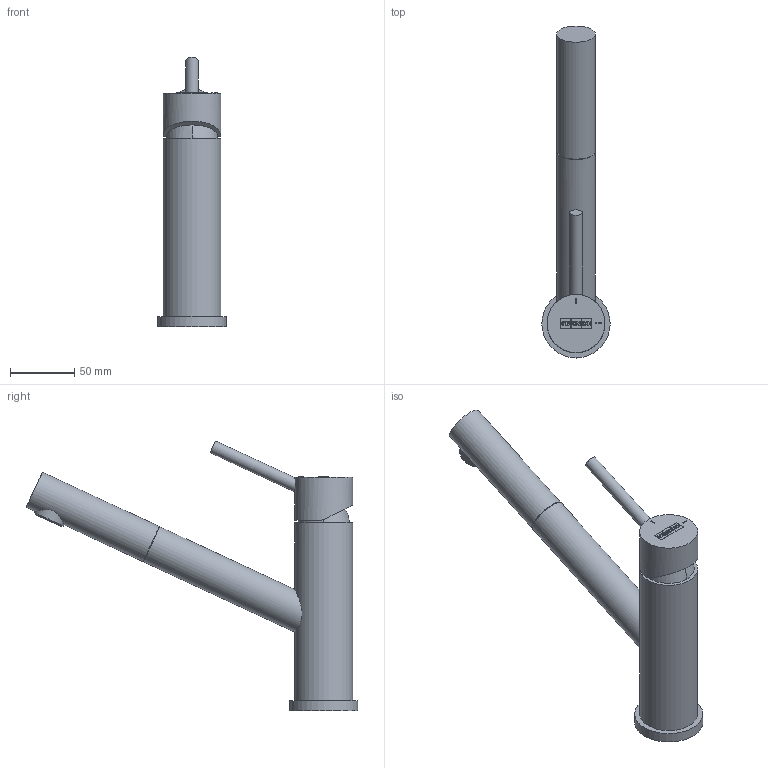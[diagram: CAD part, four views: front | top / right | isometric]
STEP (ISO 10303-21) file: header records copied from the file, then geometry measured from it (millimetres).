
FILE_DESCRIPTION(/* description */ (''),/* implementation_level */ '2;1');
FILE_NAME(/* name */ '3D001_Taps_Orbit_Pull-Out-Nozzle-SS',/* time_stamp */ '2024-01-31T14:21:32+01:00',/* author */ (''),/* organization */ (''),/* preprocessor_version */ 'ST-DEVELOPER v19.2',/* originating_system */ 'Rhino 8.3',/* authorisation */ '');
FILE_SCHEMA (('CONFIG_CONTROL_DESIGN'));
Length unit declared in the file: millimetre
Products named in the file (3): Document; LOGO_CALDO_FREDDO_TOP; LOGO_CALDO_FREDDO_TOP 01
Bounding box: 53 x 257.54 x 209.59 mm (x, y, z)
Volume: 456576.6 mm3; surface area: 56374.8 mm2
Topology: 9 solids, 9 shells, 183 faces, 490 edges, 330 vertices
Faces by surface type: plane 170, cylinder 8, bspline 5
Full cylindrical faces by diameter (mm): 6 x1, 10 x1, 24.5 x1, 30 x2, 45 x2, 53 x1
Entity records: 5686 total; most frequent: CARTESIAN_POINT 1868, ORIENTED_EDGE 980, EDGE_CURVE 490, B_SPLINE_CURVE_WITH_KNOTS 457, VERTEX_POINT 330, DIRECTION 254, AXIS2_PLACEMENT_3D 216, EDGE_LOOP 200
